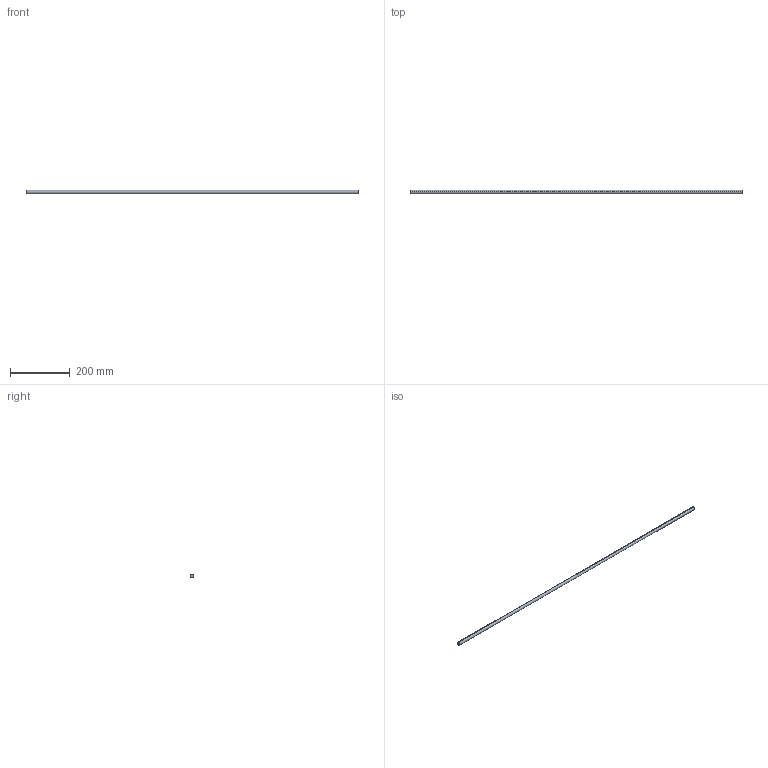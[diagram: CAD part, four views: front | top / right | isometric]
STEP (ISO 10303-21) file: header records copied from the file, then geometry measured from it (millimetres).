
FILE_DESCRIPTION (( 'STEP AP214' ), '1' );
FILE_NAME ('Querreling_Frontblende_Innenlade_KS-16_KAB-1200.step', '2010-09-22T15:05:31', ( 'grass' ), ( '' ), 'SwSTEP 2.0', 'SolidWorks 2010', '' );
FILE_SCHEMA (( 'AUTOMOTIVE_DESIGN' ));
Length unit declared in the file: millimetre
Products named in the file (1): Querreling_Frontblende_Innenlade_KS-16_KAB-1200
Bounding box: 1115 x 11 x 11 mm (x, y, z)
Volume: 105962 mm3; surface area: 38721.7 mm2
Topology: 1 solids, 1 shells, 4 faces, 6 edges, 4 vertices
Faces by surface type: cylinder 2, plane 2
Entity records: 128 total; most frequent: DIRECTION 20, CARTESIAN_POINT 15, ORIENTED_EDGE 12, AXIS2_PLACEMENT_3D 9, EDGE_CURVE 6, EDGE_LOOP 4, CIRCLE 4, FACE_OUTER_BOUND 4
